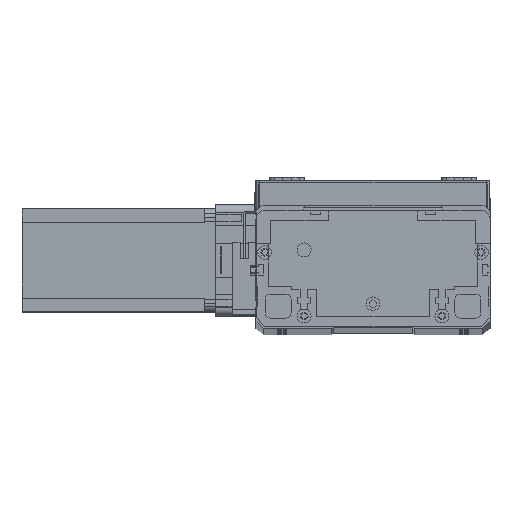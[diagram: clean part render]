
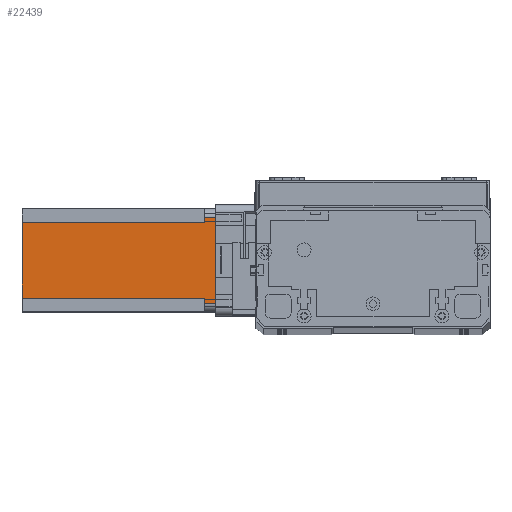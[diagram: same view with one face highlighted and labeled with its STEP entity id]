
A CAD part, top view. The second image highlights one B-rep face of the part: STEP entity #22439.
In plain terms, the highlighted planar face has unit normal (0, 0, 1) as drawn and (0, -1, 0) by its records, which use the part's own axes.
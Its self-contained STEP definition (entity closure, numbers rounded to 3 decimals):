
#90 = VERTEX_POINT ( 'NONE', #5456 ) ;
#383 = DIRECTION ( 'NONE',  ( 0., 0., -1. ) ) ;
#488 = LINE ( 'NONE', #16571, #22134 ) ;
#551 = VECTOR ( 'NONE', #17510, 1000. ) ;
#971 = ORIENTED_EDGE ( 'NONE', *, *, #18135, .T. ) ;
#1163 = VERTEX_POINT ( 'NONE', #15814 ) ;
#1812 = LINE ( 'NONE', #25300, #17378 ) ;
#1838 = LINE ( 'NONE', #15566, #6782 ) ;
#1865 = DIRECTION ( 'NONE',  ( 0., 0., 1. ) ) ;
#2569 = LINE ( 'NONE', #20735, #18768 ) ;
#2940 = ORIENTED_EDGE ( 'NONE', *, *, #17260, .F. ) ;
#3927 = CARTESIAN_POINT ( 'NONE',  ( 8., 0., -112.5 ) ) ;
#4097 = VERTEX_POINT ( 'NONE', #17284 ) ;
#4849 = ORIENTED_EDGE ( 'NONE', *, *, #25370, .F. ) ;
#5456 = CARTESIAN_POINT ( 'NONE',  ( 5., 0., 0. ) ) ;
#6782 = VECTOR ( 'NONE', #15405, 1000. ) ;
#8219 = EDGE_CURVE ( 'NONE', #4097, #1163, #24058, .T. ) ;
#8226 = EDGE_CURVE ( 'NONE', #90, #19283, #1838, .T. ) ;
#8775 = CARTESIAN_POINT ( 'NONE',  ( 52., 0., -112.5 ) ) ;
#10184 = ORIENTED_EDGE ( 'NONE', *, *, #8226, .F. ) ;
#10424 = AXIS2_PLACEMENT_3D ( 'NONE', #10938, #25293, #13070 ) ;
#10528 = CARTESIAN_POINT ( 'NONE',  ( 52., 0., -6.5 ) ) ;
#10938 = CARTESIAN_POINT ( 'NONE',  ( 0., 0., -112.5 ) ) ;
#11342 = ORIENTED_EDGE ( 'NONE', *, *, #8219, .F. ) ;
#11507 = LINE ( 'NONE', #23946, #21888 ) ;
#11860 = VERTEX_POINT ( 'NONE', #19026 ) ;
#12132 = CARTESIAN_POINT ( 'NONE',  ( 52., 0., -6.5 ) ) ;
#12461 = LINE ( 'NONE', #25523, #551 ) ;
#12656 = DIRECTION ( 'NONE',  ( 1., 0., 0. ) ) ;
#13070 = DIRECTION ( 'NONE',  ( 0., 0., -1. ) ) ;
#13446 = LINE ( 'NONE', #10528, #17699 ) ;
#13921 = EDGE_CURVE ( 'NONE', #90, #1163, #2569, .T. ) ;
#14411 = VERTEX_POINT ( 'NONE', #12132 ) ;
#15305 = EDGE_CURVE ( 'NONE', #11860, #19283, #12461, .T. ) ;
#15405 = DIRECTION ( 'NONE',  ( 1., 0., 0. ) ) ;
#15560 = CARTESIAN_POINT ( 'NONE',  ( 8., 0., -6.5 ) ) ;
#15566 = CARTESIAN_POINT ( 'NONE',  ( 0., 0., 0. ) ) ;
#15624 = EDGE_LOOP ( 'NONE', ( #971, #26237, #10184, #26478, #11342, #4849, #23878, #2940 ) ) ;
#15814 = CARTESIAN_POINT ( 'NONE',  ( 5., 0., -6.5 ) ) ;
#16006 = DIRECTION ( 'NONE',  ( -1., 0., 0. ) ) ;
#16571 = CARTESIAN_POINT ( 'NONE',  ( 8., 0., -112.5 ) ) ;
#17260 = EDGE_CURVE ( 'NONE', #14411, #26344, #1812, .T. ) ;
#17284 = CARTESIAN_POINT ( 'NONE',  ( 8., 0., -6.5 ) ) ;
#17378 = VECTOR ( 'NONE', #383, 1000. ) ;
#17510 = DIRECTION ( 'NONE',  ( 0., 0., 1. ) ) ;
#17699 = VECTOR ( 'NONE', #12656, 1000. ) ;
#18057 = VECTOR ( 'NONE', #16006, 1000. ) ;
#18135 = EDGE_CURVE ( 'NONE', #14411, #11860, #13446, .T. ) ;
#18768 = VECTOR ( 'NONE', #22743, 1000. ) ;
#19026 = CARTESIAN_POINT ( 'NONE',  ( 55., 0., -6.5 ) ) ;
#19280 = PLANE ( 'NONE',  #10424 ) ;
#19283 = VERTEX_POINT ( 'NONE', #21874 ) ;
#20735 = CARTESIAN_POINT ( 'NONE',  ( 5., 0., -112.5 ) ) ;
#21874 = CARTESIAN_POINT ( 'NONE',  ( 55., 0., 0. ) ) ;
#21888 = VECTOR ( 'NONE', #25907, 1000. ) ;
#22134 = VECTOR ( 'NONE', #1865, 1000. ) ;
#22439 = ADVANCED_FACE ( 'NONE', ( #25341 ), #19280, .T. ) ;
#22743 = DIRECTION ( 'NONE',  ( 0., 0., -1. ) ) ;
#23878 = ORIENTED_EDGE ( 'NONE', *, *, #24054, .T. ) ;
#23946 = CARTESIAN_POINT ( 'NONE',  ( 0., 0., -112.5 ) ) ;
#24054 = EDGE_CURVE ( 'NONE', #24447, #26344, #11507, .T. ) ;
#24058 = LINE ( 'NONE', #15560, #18057 ) ;
#24447 = VERTEX_POINT ( 'NONE', #3927 ) ;
#25293 = DIRECTION ( 'NONE',  ( 0., -1., 0. ) ) ;
#25300 = CARTESIAN_POINT ( 'NONE',  ( 52., 0., -112.5 ) ) ;
#25341 = FACE_OUTER_BOUND ( 'NONE', #15624, .T. ) ;
#25370 = EDGE_CURVE ( 'NONE', #24447, #4097, #488, .T. ) ;
#25523 = CARTESIAN_POINT ( 'NONE',  ( 55., 0., -112.5 ) ) ;
#25907 = DIRECTION ( 'NONE',  ( 1., 0., 0. ) ) ;
#26237 = ORIENTED_EDGE ( 'NONE', *, *, #15305, .T. ) ;
#26344 = VERTEX_POINT ( 'NONE', #8775 ) ;
#26478 = ORIENTED_EDGE ( 'NONE', *, *, #13921, .T. ) ;
